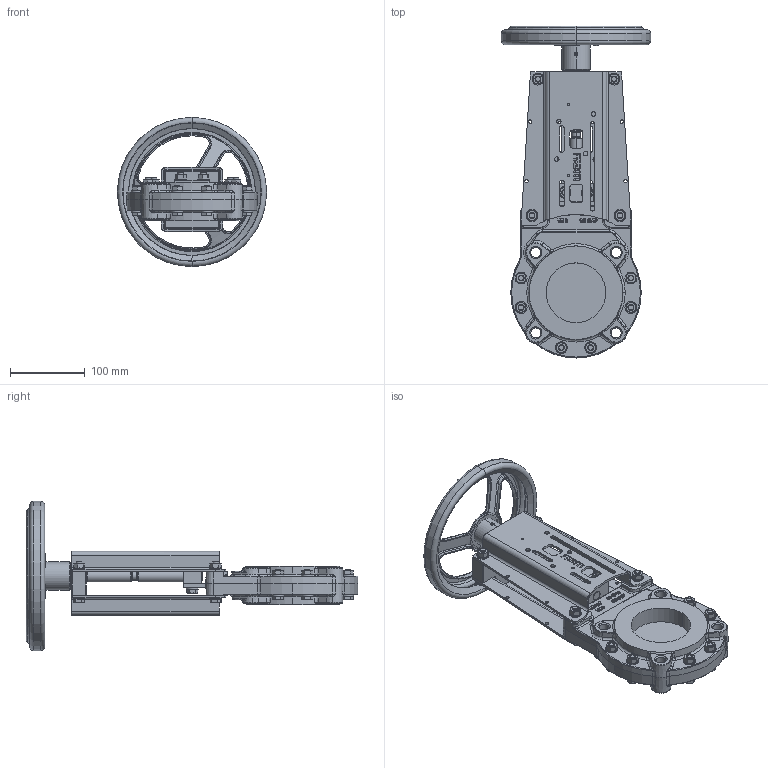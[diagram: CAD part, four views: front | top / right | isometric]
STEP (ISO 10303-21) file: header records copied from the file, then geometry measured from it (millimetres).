
FILE_DESCRIPTION (( 'STEP AP203' ), '1' );
FILE_NAME ('VMA DN 080 DH200.step', '2013-09-30T09:11:32', ( 'admin' ), ( '' ), 'SwSTEP 2.0', 'SolidWorks 2013', '' );
FILE_SCHEMA (( 'CONFIG_CONTROL_DESIGN' ));
Length unit declared in the file: millimetre
Products named in the file (1): VMA DN 080 DH200
Bounding box: 200 x 445 x 200 mm (x, y, z)
Volume: 1465604.7 mm3; surface area: 414597.8 mm2
Topology: 49 solids, 50 shells, 2420 faces, 5976 edges, 3694 vertices
Faces by surface type: plane 949, cylinder 640, bspline 376, cone 329, torus 126
Entity records: 91017 total; most frequent: CARTESIAN_POINT 35915, ORIENTED_EDGE 11876, DIRECTION 10720, EDGE_CURVE 5938, AXIS2_PLACEMENT_3D 4011, VERTEX_POINT 3694, EDGE_LOOP 2700, VECTOR 2698
